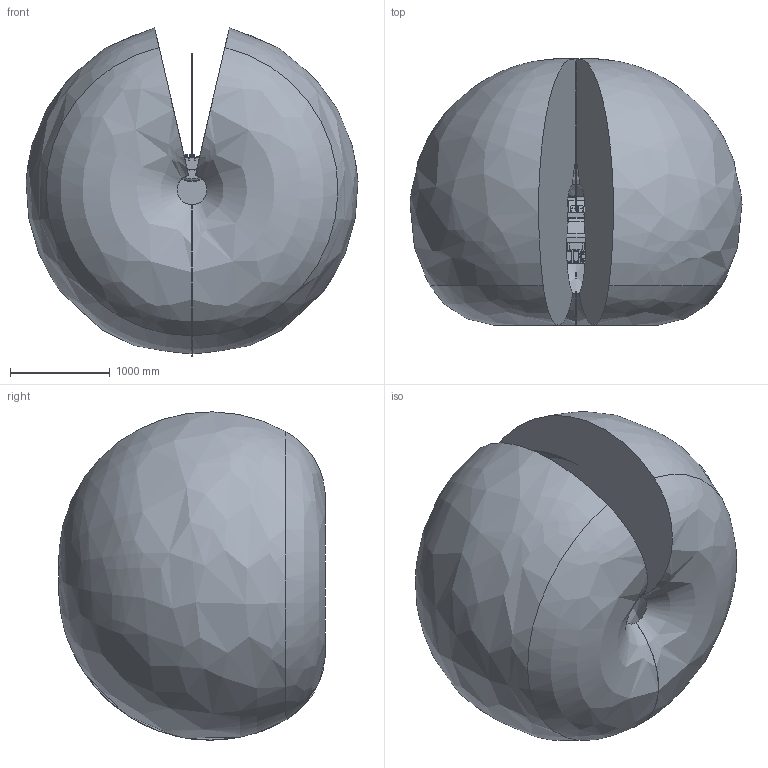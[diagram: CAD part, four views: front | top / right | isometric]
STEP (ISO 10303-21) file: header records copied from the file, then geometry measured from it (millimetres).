
FILE_DESCRIPTION((''),'2;1');
FILE_NAME('R30-1600_ASM','2023-10-06T10:21:27',('zty'),(''),'CREO PARAMETRIC BY PTC INC, 2018260','CREO PARAMETRIC BY PTC INC, 2018260','');
FILE_SCHEMA(('CONFIG_CONTROL_DESIGN','SHAPE_APPEARANCE_LAYERS_GROUPS'));
Products named in the file (11): R30-1600_BASE; R30-1600_JOINT1; R30-1600_JOINT2; R30-1600_JOINT3; R30-1600_JOINT4; R30-1600_JOINT5; R30-1600_JOINT6; R30-1600_CABLE; R30-1600_RANGE; R30-1600_RANGE_2; R30-1600_ASM
Assembly tree (10 placements, depth 2):
  R30-1600_ASM
    R30-1600_BASE
    R30-1600_JOINT1
    R30-1600_JOINT2
    R30-1600_JOINT3
    R30-1600_JOINT4
    R30-1600_JOINT5
    R30-1600_JOINT6
    R30-1600_CABLE
    R30-1600_RANGE
    R30-1600_RANGE_2
Bounding box: 3330.54 x 2672.12 x 3293.47 mm (x, y, z)
Volume: 15604119406.1 mm3; surface area: 51413870 mm2
Topology: 10 solids, 14 shells, 6122 faces, 15378 edges, 9312 vertices
Faces by surface type: cylinder 1799, plane 1521, bspline 1432, torus 864, cone 421, sphere 81, extrusion 4
Entity records: 269003 total; most frequent: CARTESIAN_POINT 134291, ORIENTED_EDGE 30376, DIRECTION 25327, EDGE_CURVE 15188, AXIS2_PLACEMENT_3D 10201, VERTEX_POINT 9310, EDGE_LOOP 6418, FACE_OUTER_BOUND 6122
